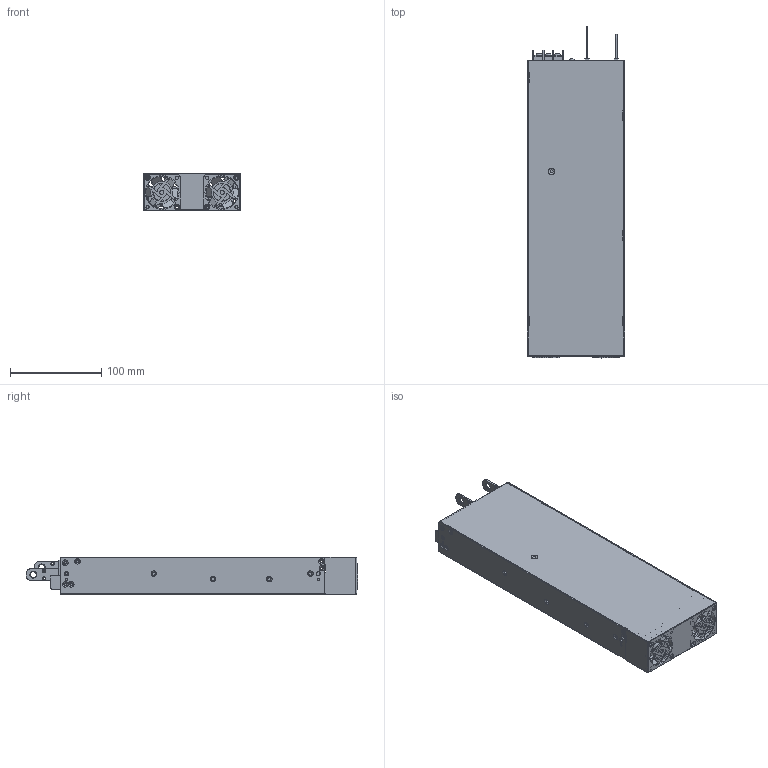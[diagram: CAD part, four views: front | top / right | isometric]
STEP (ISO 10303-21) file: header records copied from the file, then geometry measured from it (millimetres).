
FILE_DESCRIPTION((''),'2;1');
FILE_NAME('NSP-3200-1_ASM','2023-04-17T',('Vincent.Kao'),(''),'CREO PARAMETRIC BY PTC INC, 2016260','CREO PARAMETRIC BY PTC INC, 2016260','');
FILE_SCHEMA(('AUTOMOTIVE_DESIGN { 1 0 10303 214 1 1 1 1 }'));
Length unit declared in the file: millimetre
Products named in the file (40): _X2_5F8C84CB_X0_; _X2_56FA5B9A9435_X0__1; _X2_55AE6A5F4E0A84CB_X0_; FFFF_1_1; V; TR-4RL; TR-4RL_STP_ASM; MOS_ASM; SS; MHL-24; MHL-24_STP_ASM; A1-257120; A1_3; HS; 952_1_ASM; _S_JU_S___; _X2_628A624B_X0_B; A1-256120_ASM; A1-270450_ASM; C-C; C-B; A2-255560_ASM; A2_1; _X2_55AE6A5F_X0__1_1_1_1_ASM; A5_ASM; _X2_55AE6A5F98A8624784CB_X0__2_; A4_1_ASM; GG_2_1_1_1; _X2_6B638F3851FA_X0__2; _X2_8CA08F3851FA_X0__1; A2-154920_ASM; 26D77668-81B1-466B-87E3-FC1E3B3; SS_1; DDDD; A1_1_ASM; CASE; FFF; VR_1; A1-425640_ASM; NSP-3200-1_ASM
Assembly tree (43 placements, depth 8):
  NSP-3200-1_ASM
    A1-425640_ASM
      _X2_5F8C84CB_X0_
      _X2_56FA5B9A9435_X0__1  x2
      _X2_55AE6A5F4E0A84CB_X0_
      FFFF_1_1
      A5_ASM
        _X2_55AE6A5F_X0__1_1_1_1_ASM
          V
          A1-270450_ASM
            MOS_ASM
              TR-4RL_STP_ASM
                TR-4RL
            952_1_ASM
              SS
              MHL-24_STP_ASM
                MHL-24
              A1-257120
              A1_3
              HS
            _S_JU_S___
            A1-256120_ASM
              _X2_628A624B_X0_B
          A2-255560_ASM
            C-C
            C-B
          A2_1
      A4_1_ASM  x2
        _X2_55AE6A5F98A8624784CB_X0__2_
      A2-154920_ASM
        GG_2_1_1_1  x2
        _X2_6B638F3851FA_X0__2
        _X2_8CA08F3851FA_X0__1
      A1_1_ASM
        26D77668-81B1-466B-87E3-FC1E3B3  x2
        SS_1
        DDDD
      CASE
      FFF
      VR_1
Bounding box: 106.9 x 363.7 x 41 mm (x, y, z)
Volume: 206009.5 mm3; surface area: 326914.9 mm2
Topology: 19 solids, 19 shells, 1849 faces, 5106 edges, 3288 vertices
Faces by surface type: plane 880, cylinder 709, cone 120, torus 108, sphere 24, bspline 8
Entity records: 57130 total; most frequent: CARTESIAN_POINT 8111, DIRECTION 7955, ORIENTED_EDGE 7372, PRESENTATION_STYLE_ASSIGNMENT 3761, STYLED_ITEM 3701, CURVE_STYLE 3686, EDGE_CURVE 3686, AXIS2_PLACEMENT_3D 2862
